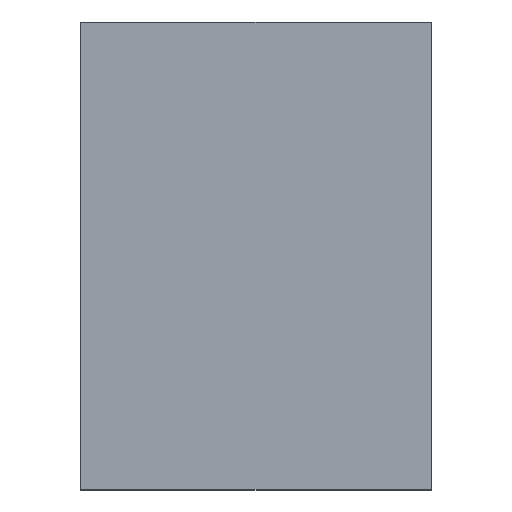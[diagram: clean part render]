
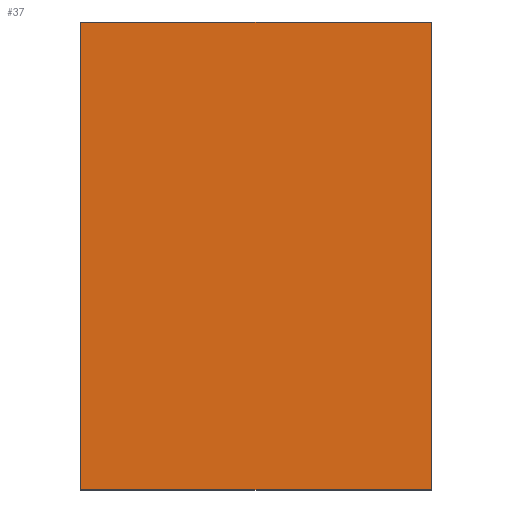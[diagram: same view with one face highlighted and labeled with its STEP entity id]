
A CAD part, top view. The second image highlights one B-rep face of the part: STEP entity #37.
In plain terms, the highlighted planar face has unit normal (0, 0, 1).
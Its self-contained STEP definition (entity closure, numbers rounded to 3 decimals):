
#37=ADVANCED_FACE('',(#47),#107,.T.);
#47=FACE_OUTER_BOUND('',#57,.F.);
#57=EDGE_LOOP('',(#82,#83,#84,#85));
#82=ORIENTED_EDGE('',*,*,#163,.T.);
#83=ORIENTED_EDGE('',*,*,#166,.T.);
#84=ORIENTED_EDGE('',*,*,#165,.T.);
#85=ORIENTED_EDGE('',*,*,#164,.T.);
#107=PLANE('',#230);
#163=EDGE_CURVE('',#214,#213,#183,.T.);
#164=EDGE_CURVE('',#212,#214,#184,.T.);
#165=EDGE_CURVE('',#211,#212,#185,.T.);
#166=EDGE_CURVE('',#213,#211,#186,.T.);
#183=LINE('',#305,#203);
#184=LINE('',#306,#204);
#185=LINE('',#307,#205);
#186=LINE('',#308,#206);
#203=VECTOR('',#250,100.);
#204=VECTOR('',#251,75.);
#205=VECTOR('',#252,100.);
#206=VECTOR('',#253,75.);
#211=VERTEX_POINT('',#281);
#212=VERTEX_POINT('',#282);
#213=VERTEX_POINT('',#283);
#214=VERTEX_POINT('',#284);
#230=AXIS2_PLACEMENT_3D('',#318,#268,#269);
#250=DIRECTION('',(0.,1.,0.));
#251=DIRECTION('',(-1.,0.,0.));
#252=DIRECTION('',(0.,-1.,0.));
#253=DIRECTION('',(1.,0.,0.));
#268=DIRECTION('',(0.,0.,1.));
#269=DIRECTION('',(1.,0.,0.));
#281=CARTESIAN_POINT('',(49.004,110.8,111.353));
#282=CARTESIAN_POINT('',(49.004,10.8,111.353));
#283=CARTESIAN_POINT('',(-25.996,110.8,111.353));
#284=CARTESIAN_POINT('',(-25.996,10.8,111.353));
#305=CARTESIAN_POINT('',(-25.996,10.8,111.353));
#306=CARTESIAN_POINT('',(49.004,10.8,111.353));
#307=CARTESIAN_POINT('',(49.004,110.8,111.353));
#308=CARTESIAN_POINT('',(-25.996,110.8,111.353));
#318=CARTESIAN_POINT('',(-26.996,9.8,111.353));
